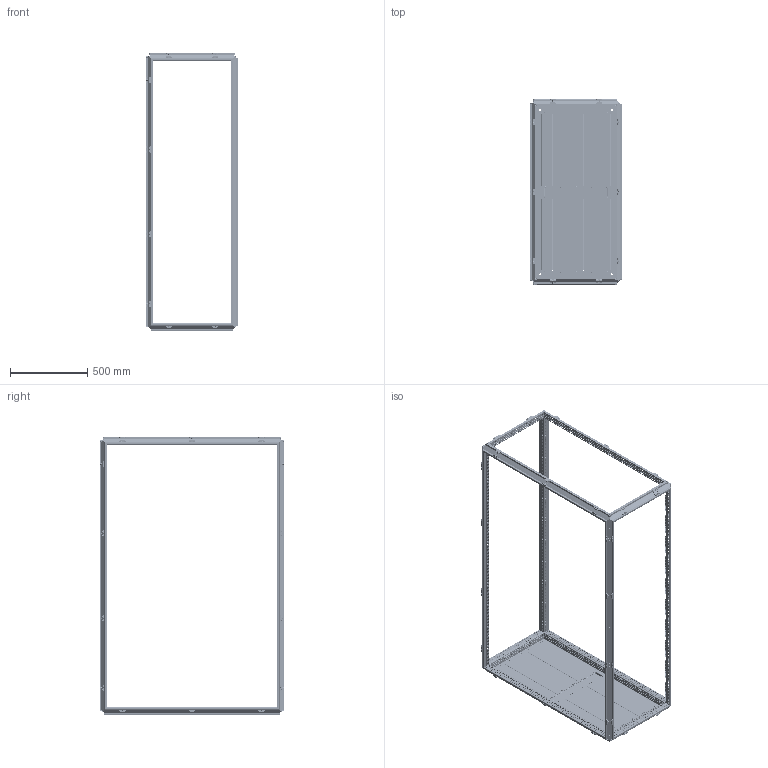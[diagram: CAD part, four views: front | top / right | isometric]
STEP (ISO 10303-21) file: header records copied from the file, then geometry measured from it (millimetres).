
FILE_DESCRIPTION(('STEP AP203'), '1');
FILE_NAME('3000 忺謤僔 捘', '', ('UNSPECIFIED'), ('UNSPECIFIED'), 'C3D Converter', 'C3D Toolkit', '');
FILE_SCHEMA(('CONFIG_CONTROL_DESIGN'));
Length unit declared in the file: millimetre
Products named in the file (14): 3000.180.120.60 СБ; 3000; 3007.175; 3007.75; 3007.200; 3006; 3009.04; 3009.04.01; 3009.04.2; 3009.04.01.2
Assembly tree (160 placements, depth 3):
  3000.180.120.60 СБ
    3000
    (unnamed)  x96
    3007.175  x2
    (unnamed)  x22
    3007.75  x2
    3007.200  x2
    3006
    3009.04  x10
      3009.04.01
      (unnamed)
      (unnamed)
    3009.04.2  x15
      3009.04.01.2
      (unnamed)
      (unnamed)
Bounding box: 597 x 1197 x 1798.5 mm (x, y, z)
Volume: 4673050.7 mm3; surface area: 6188331.5 mm2
Topology: 257 solids, 257 shells, 19017 faces, 53171 edges, 35060 vertices
Faces by surface type: plane 13189, cylinder 4664, cone 748, torus 268, bspline 148
Full cylindrical faces by diameter (mm): 4.134 x136, 4.5 x2142, 4.8 x22, 5 x148, 5.8 x40, 6.8 x192, 7 x96, 7.5 x50, 8 x96, 9.2 x50, 10.106 x8, 14 x4
Entity records: 425742 total; most frequent: CARTESIAN_POINT 78051, ORIENTED_EDGE 68382, DIRECTION 64749, EDGE_CURVE 34191, LINE 28099, VECTOR 28099, VERTEX_POINT 24110, EDGE_LOOP 23433
